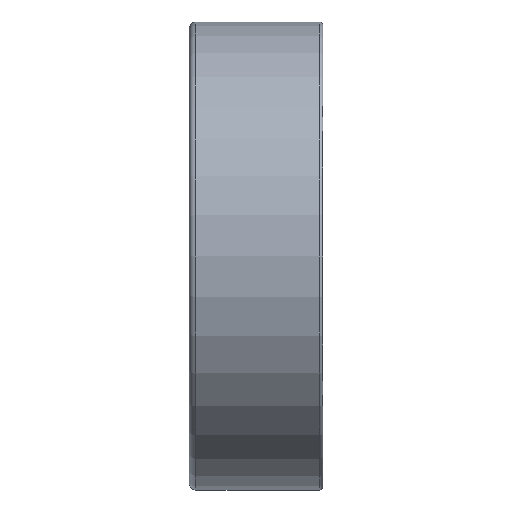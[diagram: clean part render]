
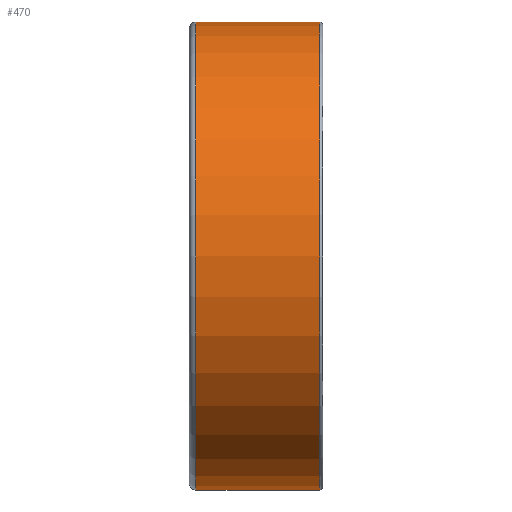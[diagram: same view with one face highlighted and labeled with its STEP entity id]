
A CAD part, front view. The second image highlights one B-rep face of the part: STEP entity #470.
In plain terms, the highlighted cylindrical face has radius 21 mm (diameter 42 mm), a full revolution.
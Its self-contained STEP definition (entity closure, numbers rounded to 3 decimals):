
#152=CYLINDRICAL_SURFACE('',#722,21.);
#232=EDGE_LOOP('',(#324));
#233=EDGE_LOOP('',(#325));
#324=ORIENTED_EDGE('',*,*,#378,.F.);
#325=ORIENTED_EDGE('',*,*,#376,.T.);
#376=EDGE_CURVE('',#659,#659,#396,.T.);
#378=EDGE_CURVE('',#661,#661,#398,.T.);
#396=CIRCLE('',#718,21.);
#398=CIRCLE('',#721,21.);
#470=ADVANCED_FACE('',(#581,#582),#152,.T.);
#581=FACE_BOUND('',#232,.T.);
#582=FACE_BOUND('',#233,.T.);
#659=VERTEX_POINT('',#2474);
#661=VERTEX_POINT('',#2479);
#718=AXIS2_PLACEMENT_3D('',#2473,#831,#832);
#721=AXIS2_PLACEMENT_3D('',#2478,#837,#838);
#722=AXIS2_PLACEMENT_3D('',#2480,#839,#840);
#831=DIRECTION('',(1.,0.,0.));
#832=DIRECTION('',(0.,0.,-1.));
#837=DIRECTION('',(1.,0.,0.));
#838=DIRECTION('',(0.,0.,-1.));
#839=DIRECTION('',(1.,0.,0.));
#840=DIRECTION('',(0.,0.,-1.));
#2473=CARTESIAN_POINT('',(-5.4,0.,0.));
#2474=CARTESIAN_POINT('',(-5.4,0.,-21.));
#2478=CARTESIAN_POINT('',(5.7,0.,0.));
#2479=CARTESIAN_POINT('',(5.7,0.,-21.));
#2480=CARTESIAN_POINT('',(-5.4,0.,0.));
